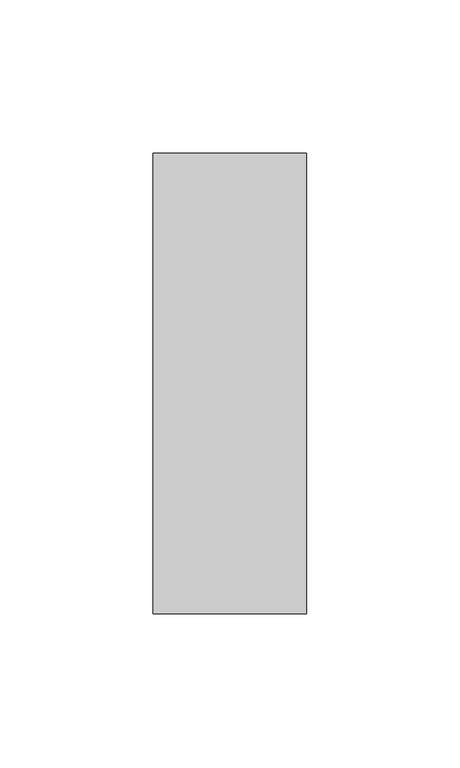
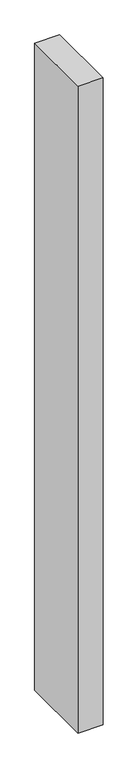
"""IFC4 building model written with IfcOpenShell, lengths in millimetres: member geometry, Прямоугольный импост : 50 x 150 мм."""

from ifc_helpers import new_model, si_unit, frame, origin, place, context, project, spatial, polyline, outline, extrude, source, transform, mapped, element, save


def member_91da5d2c(model_context):
    return source(origin(), model_context, "Body", "SweptSolid", [
        extrude(outline(polyline([(25.0, 75.0), (25.0, -75.0), (-25.0, -75.0), (-25.0, 75.0), (25.0, 75.0)])), frame((0.0, 0.0, -1367.1067603), z_axis=(0.0, 0.0, 1.0), x_axis=(1.0, 0.0, 0.0)), (0.0, 0.0, 1.0), 1367.1067603),
    ])


if __name__ == "__main__":
    model = new_model("IFC4")
    model_context = context("Model", 3, world=origin())
    ifc_project = project(units=[si_unit("LENGTHUNIT", "METRE", prefix="MILLI")], contexts=[model_context])
    site = spatial("IfcSite", under=ifc_project)
    building = spatial("IfcBuilding", under=site)
    placement = place(None, origin())
    member_shape = member_91da5d2c(model_context)
    element("IfcMember", 1, ObjectType="Прямоугольный импост : 50 x 150 мм", at=placement, inside=building, context=model_context, shape_type="MappedRepresentation", body=[
        mapped(member_shape, transform((0.0, 0.0, 0.0), x_axis=(1.0, 0.0, 0.0), y_axis=(0.0, 1.0, 0.0), z_axis=(0.0, 0.0, 1.0))),
    ])
    save(model, "model.ifc")
